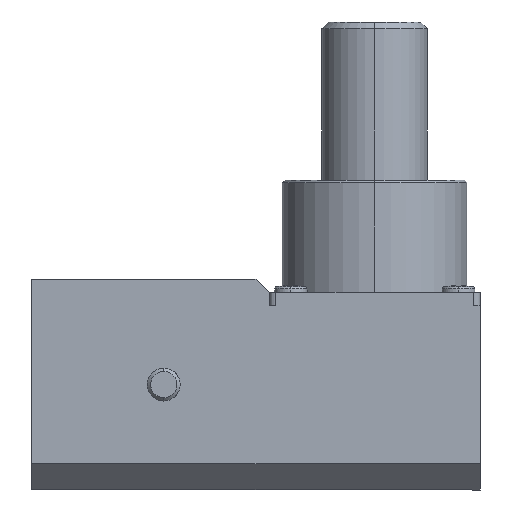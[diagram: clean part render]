
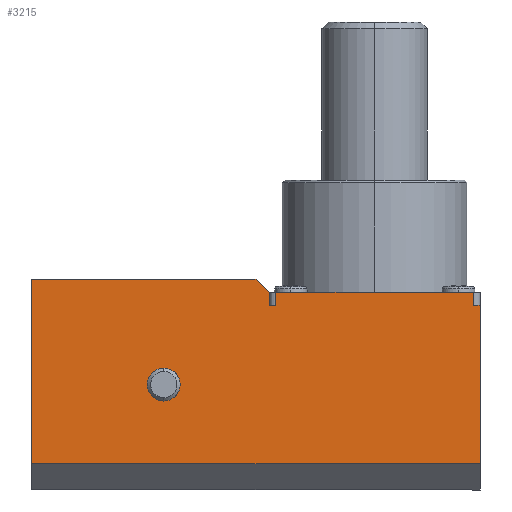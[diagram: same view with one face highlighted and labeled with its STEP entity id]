
A CAD part, left-side view. The second image highlights one B-rep face of the part: STEP entity #3215.
In plain terms, the highlighted planar face has unit normal (-1, 0, 0).
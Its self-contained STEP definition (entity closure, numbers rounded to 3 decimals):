
#269 = LINE ( 'NONE', #8022, #4434 ) ;
#369 = CARTESIAN_POINT ( 'NONE',  ( -8., 8., 6. ) ) ;
#373 = LINE ( 'NONE', #5538, #3617 ) ;
#605 = ORIENTED_EDGE ( 'NONE', *, *, #8450, .T. ) ;
#611 = VERTEX_POINT ( 'NONE', #5395 ) ;
#754 = CARTESIAN_POINT ( 'NONE',  ( -8., -7.5, 6. ) ) ;
#762 = EDGE_CURVE ( 'NONE', #2453, #4592, #373, .T. ) ;
#822 = EDGE_LOOP ( 'NONE', ( #5039, #605, #1182, #1026, #3478, #5962, #1243, #1142, #4904, #2664, #1387 ) ) ;
#844 = LINE ( 'NONE', #6048, #6757 ) ;
#1024 = VERTEX_POINT ( 'NONE', #2724 ) ;
#1026 = ORIENTED_EDGE ( 'NONE', *, *, #4079, .F. ) ;
#1042 = DIRECTION ( 'NONE',  ( 0., 0., -1. ) ) ;
#1052 = VECTOR ( 'NONE', #4322, 1000. ) ;
#1142 = ORIENTED_EDGE ( 'NONE', *, *, #762, .T. ) ;
#1182 = ORIENTED_EDGE ( 'NONE', *, *, #1896, .F. ) ;
#1189 = LINE ( 'NONE', #8303, #7948 ) ;
#1195 = EDGE_CURVE ( 'NONE', #1666, #4924, #269, .T. ) ;
#1243 = ORIENTED_EDGE ( 'NONE', *, *, #2420, .F. ) ;
#1309 = EDGE_CURVE ( 'NONE', #7832, #611, #3110, .T. ) ;
#1365 = DIRECTION ( 'NONE',  ( 0., 0., -1. ) ) ;
#1387 = ORIENTED_EDGE ( 'NONE', *, *, #5187, .T. ) ;
#1425 = DIRECTION ( 'NONE',  ( 0., 0., -1. ) ) ;
#1458 = CARTESIAN_POINT ( 'NONE',  ( -8., 16., -1.25 ) ) ;
#1488 = LINE ( 'NONE', #369, #4760 ) ;
#1586 = VERTEX_POINT ( 'NONE', #8074 ) ;
#1666 = VERTEX_POINT ( 'NONE', #5372 ) ;
#1822 = DIRECTION ( 'NONE',  ( 0., -1., 0. ) ) ;
#1896 = EDGE_CURVE ( 'NONE', #4085, #1586, #5252, .T. ) ;
#2055 = EDGE_CURVE ( 'NONE', #3434, #4483, #4326, .T. ) ;
#2121 = LINE ( 'NONE', #5279, #5394 ) ;
#2169 = DIRECTION ( 'NONE',  ( 0., 0., 1. ) ) ;
#2235 = DIRECTION ( 'NONE',  ( 0., 0., 1. ) ) ;
#2297 = CARTESIAN_POINT ( 'NONE',  ( -8., 26., -8. ) ) ;
#2325 = DIRECTION ( 'NONE',  ( 0., -1., 0. ) ) ;
#2358 = ORIENTED_EDGE ( 'NONE', *, *, #7470, .F. ) ;
#2420 = EDGE_CURVE ( 'NONE', #2453, #3434, #8114, .T. ) ;
#2424 = EDGE_CURVE ( 'NONE', #3407, #1024, #6879, .T. ) ;
#2453 = VERTEX_POINT ( 'NONE', #6097 ) ;
#2533 = CARTESIAN_POINT ( 'NONE',  ( -8., 8., 8. ) ) ;
#2628 = PLANE ( 'NONE',  #3658 ) ;
#2650 = DIRECTION ( 'NONE',  ( -1., 0., 0. ) ) ;
#2664 = ORIENTED_EDGE ( 'NONE', *, *, #1309, .F. ) ;
#2724 = CARTESIAN_POINT ( 'NONE',  ( -8., 16., 1.25 ) ) ;
#2778 = VECTOR ( 'NONE', #8082, 1000. ) ;
#2954 = DIRECTION ( 'NONE',  ( -1., 0., 0. ) ) ;
#2966 = DIRECTION ( 'NONE',  ( 0., -1., 0. ) ) ;
#2984 = CARTESIAN_POINT ( 'NONE',  ( -8., 8., 7. ) ) ;
#3110 = LINE ( 'NONE', #4398, #7214 ) ;
#3215 = ADVANCED_FACE ( 'NONE', ( #6871, #5857 ), #2628, .T. ) ;
#3383 = EDGE_CURVE ( 'NONE', #611, #4592, #844, .T. ) ;
#3407 = VERTEX_POINT ( 'NONE', #1458 ) ;
#3434 = VERTEX_POINT ( 'NONE', #6646 ) ;
#3478 = ORIENTED_EDGE ( 'NONE', *, *, #7644, .T. ) ;
#3480 = AXIS2_PLACEMENT_3D ( 'NONE', #4833, #4225, #2169 ) ;
#3488 = EDGE_LOOP ( 'NONE', ( #2358, #6139 ) ) ;
#3508 = VECTOR ( 'NONE', #2966, 1000. ) ;
#3617 = VECTOR ( 'NONE', #2325, 1000. ) ;
#3658 = AXIS2_PLACEMENT_3D ( 'NONE', #5890, #2650, #4508 ) ;
#3706 = CARTESIAN_POINT ( 'NONE',  ( -8., 8., 7. ) ) ;
#4079 = EDGE_CURVE ( 'NONE', #6760, #4085, #1488, .T. ) ;
#4085 = VERTEX_POINT ( 'NONE', #5589 ) ;
#4124 = AXIS2_PLACEMENT_3D ( 'NONE', #4161, #2954, #2235 ) ;
#4161 = CARTESIAN_POINT ( 'NONE',  ( -8., 16., 0. ) ) ;
#4225 = DIRECTION ( 'NONE',  ( -1., 0., 0. ) ) ;
#4322 = DIRECTION ( 'NONE',  ( 0., 0.707, 0.707 ) ) ;
#4326 = LINE ( 'NONE', #2533, #6267 ) ;
#4398 = CARTESIAN_POINT ( 'NONE',  ( -8., 8., 6. ) ) ;
#4434 = VECTOR ( 'NONE', #6747, 1000. ) ;
#4483 = VERTEX_POINT ( 'NONE', #7450 ) ;
#4508 = DIRECTION ( 'NONE',  ( 0., 0., -1. ) ) ;
#4592 = VERTEX_POINT ( 'NONE', #7714 ) ;
#4760 = VECTOR ( 'NONE', #1042, 1000. ) ;
#4799 = CARTESIAN_POINT ( 'NONE',  ( -8., 7.5, 7. ) ) ;
#4833 = CARTESIAN_POINT ( 'NONE',  ( -8., 16., 0. ) ) ;
#4904 = ORIENTED_EDGE ( 'NONE', *, *, #3383, .F. ) ;
#4924 = VERTEX_POINT ( 'NONE', #4799 ) ;
#4971 = CARTESIAN_POINT ( 'NONE',  ( -8., 8., 6. ) ) ;
#5039 = ORIENTED_EDGE ( 'NONE', *, *, #1195, .T. ) ;
#5067 = DIRECTION ( 'NONE',  ( 0., -1., 0. ) ) ;
#5187 = EDGE_CURVE ( 'NONE', #7832, #1666, #1189, .T. ) ;
#5252 = LINE ( 'NONE', #4971, #3508 ) ;
#5279 = CARTESIAN_POINT ( 'NONE',  ( -8., 7.5, -4.8 ) ) ;
#5372 = CARTESIAN_POINT ( 'NONE',  ( -8., -7.5, 7. ) ) ;
#5394 = VECTOR ( 'NONE', #1365, 1000. ) ;
#5395 = CARTESIAN_POINT ( 'NONE',  ( -8., -8., 6. ) ) ;
#5538 = CARTESIAN_POINT ( 'NONE',  ( -8., -8., -6. ) ) ;
#5589 = CARTESIAN_POINT ( 'NONE',  ( -8., 8., 6. ) ) ;
#5702 = DIRECTION ( 'NONE',  ( 0., 0., 1. ) ) ;
#5857 = FACE_BOUND ( 'NONE', #3488, .T. ) ;
#5890 = CARTESIAN_POINT ( 'NONE',  ( -8., 8., -4.8 ) ) ;
#5962 = ORIENTED_EDGE ( 'NONE', *, *, #2055, .F. ) ;
#6048 = CARTESIAN_POINT ( 'NONE',  ( -8., -8., -8. ) ) ;
#6097 = CARTESIAN_POINT ( 'NONE',  ( -8., 26., -6. ) ) ;
#6139 = ORIENTED_EDGE ( 'NONE', *, *, #2424, .F. ) ;
#6267 = VECTOR ( 'NONE', #1822, 1000. ) ;
#6646 = CARTESIAN_POINT ( 'NONE',  ( -8., 26., 8. ) ) ;
#6747 = DIRECTION ( 'NONE',  ( 0., 1., 0. ) ) ;
#6757 = VECTOR ( 'NONE', #1425, 1000. ) ;
#6760 = VERTEX_POINT ( 'NONE', #3706 ) ;
#6871 = FACE_OUTER_BOUND ( 'NONE', #822, .T. ) ;
#6879 = CIRCLE ( 'NONE', #4124, 1.25 ) ;
#7214 = VECTOR ( 'NONE', #5067, 1000. ) ;
#7450 = CARTESIAN_POINT ( 'NONE',  ( -8., 9., 8. ) ) ;
#7470 = EDGE_CURVE ( 'NONE', #1024, #3407, #8020, .T. ) ;
#7591 = LINE ( 'NONE', #2984, #1052 ) ;
#7644 = EDGE_CURVE ( 'NONE', #6760, #4483, #7591, .T. ) ;
#7714 = CARTESIAN_POINT ( 'NONE',  ( -8., -8., -6. ) ) ;
#7832 = VERTEX_POINT ( 'NONE', #754 ) ;
#7948 = VECTOR ( 'NONE', #5702, 1000. ) ;
#8020 = CIRCLE ( 'NONE', #3480, 1.25 ) ;
#8022 = CARTESIAN_POINT ( 'NONE',  ( -8., -7., 7. ) ) ;
#8074 = CARTESIAN_POINT ( 'NONE',  ( -8., 7.5, 6. ) ) ;
#8082 = DIRECTION ( 'NONE',  ( 0., 0., 1. ) ) ;
#8114 = LINE ( 'NONE', #2297, #2778 ) ;
#8303 = CARTESIAN_POINT ( 'NONE',  ( -8., -7.5, -4.8 ) ) ;
#8450 = EDGE_CURVE ( 'NONE', #4924, #1586, #2121, .T. ) ;
